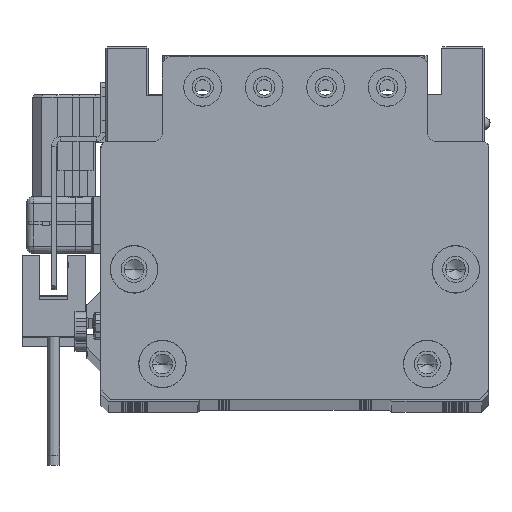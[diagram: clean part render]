
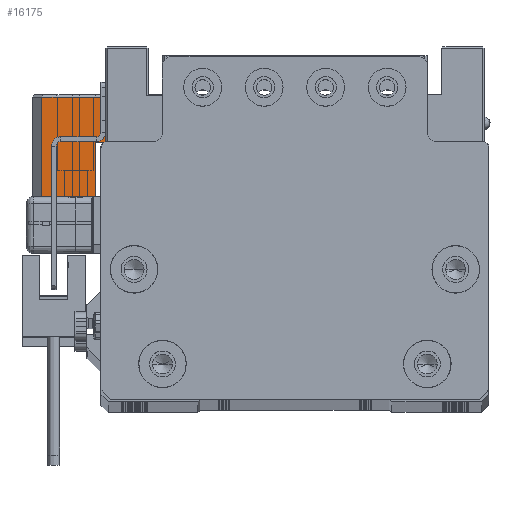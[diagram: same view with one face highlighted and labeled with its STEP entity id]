
A CAD part, top view. The second image highlights one B-rep face of the part: STEP entity #16175.
In plain terms, the highlighted planar face has unit normal (0, 0, 1) as drawn and (1, 0, 0) by its records, which use the part's own axes.
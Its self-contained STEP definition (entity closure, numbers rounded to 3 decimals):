
#347 = DIRECTION ( 'NONE',  ( 0., 0., 1. ) ) ;
#875 = VECTOR ( 'NONE', #34754, 1000. ) ;
#2328 = LINE ( 'NONE', #54746, #37426 ) ;
#3312 = LINE ( 'NONE', #7629, #17672 ) ;
#4143 = EDGE_CURVE ( 'NONE', #60908, #23929, #15422, .T. ) ;
#5348 = CARTESIAN_POINT ( 'NONE',  ( 17., -10.75, -15.5 ) ) ;
#6667 = CARTESIAN_POINT ( 'NONE',  ( 17., -10.75, -13.3 ) ) ;
#6678 = EDGE_LOOP ( 'NONE', ( #7732, #33033, #26627, #15294, #48150, #11084 ) ) ;
#7213 = CARTESIAN_POINT ( 'NONE',  ( 17., 10.25, -15.5 ) ) ;
#7629 = CARTESIAN_POINT ( 'NONE',  ( 17., 0.75, -15.5 ) ) ;
#7732 = ORIENTED_EDGE ( 'NONE', *, *, #59557, .T. ) ;
#8535 = VERTEX_POINT ( 'NONE', #24095 ) ;
#9669 = PLANE ( 'NONE',  #47853 ) ;
#11084 = ORIENTED_EDGE ( 'NONE', *, *, #60460, .F. ) ;
#11882 = DIRECTION ( 'NONE',  ( 0., -1., 0. ) ) ;
#14604 = FACE_OUTER_BOUND ( 'NONE', #6678, .T. ) ;
#15294 = ORIENTED_EDGE ( 'NONE', *, *, #4143, .F. ) ;
#15422 = LINE ( 'NONE', #52743, #42175 ) ;
#15950 = CARTESIAN_POINT ( 'NONE',  ( 17., -10.75, -15.5 ) ) ;
#16175 = ADVANCED_FACE ( 'NONE', ( #14604 ), #9669, .T. ) ;
#16810 = LINE ( 'NONE', #6667, #38020 ) ;
#17080 = CARTESIAN_POINT ( 'NONE',  ( 17., -10.75, -13.3 ) ) ;
#17672 = VECTOR ( 'NONE', #59768, 1000. ) ;
#21989 = DIRECTION ( 'NONE',  ( 0., 0., 1. ) ) ;
#23929 = VERTEX_POINT ( 'NONE', #27051 ) ;
#24095 = CARTESIAN_POINT ( 'NONE',  ( 17., 10.25, -2. ) ) ;
#24204 = EDGE_CURVE ( 'NONE', #28785, #60908, #16810, .T. ) ;
#26358 = VERTEX_POINT ( 'NONE', #57499 ) ;
#26627 = ORIENTED_EDGE ( 'NONE', *, *, #60822, .T. ) ;
#27051 = CARTESIAN_POINT ( 'NONE',  ( 17., -10.75, -2. ) ) ;
#27631 = EDGE_CURVE ( 'NONE', #26358, #8535, #49489, .T. ) ;
#28785 = VERTEX_POINT ( 'NONE', #47654 ) ;
#32792 = DIRECTION ( 'NONE',  ( 0., 0., -1. ) ) ;
#33033 = ORIENTED_EDGE ( 'NONE', *, *, #27631, .T. ) ;
#34754 = DIRECTION ( 'NONE',  ( 0., 1., 0. ) ) ;
#37426 = VECTOR ( 'NONE', #11882, 1000. ) ;
#38020 = VECTOR ( 'NONE', #44293, 1000. ) ;
#39385 = LINE ( 'NONE', #15950, #875 ) ;
#41752 = DIRECTION ( 'NONE',  ( 1., 0., 0. ) ) ;
#42175 = VECTOR ( 'NONE', #347, 1000. ) ;
#44293 = DIRECTION ( 'NONE',  ( 0., -1., 0. ) ) ;
#47654 = CARTESIAN_POINT ( 'NONE',  ( 17., 0.75, -13.3 ) ) ;
#47853 = AXIS2_PLACEMENT_3D ( 'NONE', #5348, #41752, #32792 ) ;
#48104 = VERTEX_POINT ( 'NONE', #59299 ) ;
#48150 = ORIENTED_EDGE ( 'NONE', *, *, #24204, .F. ) ;
#49489 = LINE ( 'NONE', #7213, #51379 ) ;
#51379 = VECTOR ( 'NONE', #21989, 1000. ) ;
#52743 = CARTESIAN_POINT ( 'NONE',  ( 17., -10.75, -15.5 ) ) ;
#54746 = CARTESIAN_POINT ( 'NONE',  ( 17., -10.75, -2. ) ) ;
#57499 = CARTESIAN_POINT ( 'NONE',  ( 17., 10.25, -15.5 ) ) ;
#59299 = CARTESIAN_POINT ( 'NONE',  ( 17., 0.75, -15.5 ) ) ;
#59557 = EDGE_CURVE ( 'NONE', #48104, #26358, #39385, .T. ) ;
#59768 = DIRECTION ( 'NONE',  ( 0., 0., 1. ) ) ;
#60460 = EDGE_CURVE ( 'NONE', #48104, #28785, #3312, .T. ) ;
#60822 = EDGE_CURVE ( 'NONE', #8535, #23929, #2328, .T. ) ;
#60908 = VERTEX_POINT ( 'NONE', #17080 ) ;
